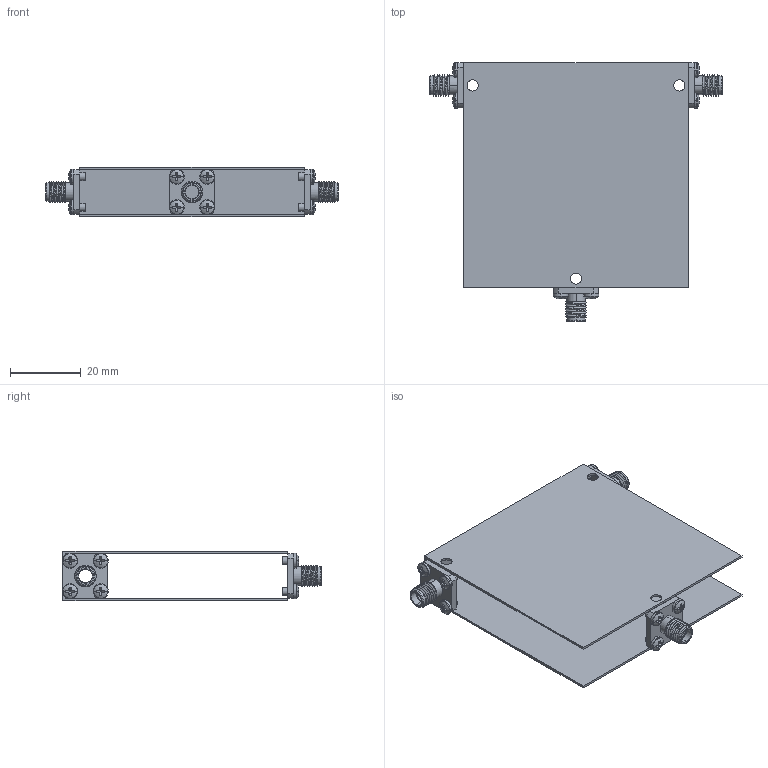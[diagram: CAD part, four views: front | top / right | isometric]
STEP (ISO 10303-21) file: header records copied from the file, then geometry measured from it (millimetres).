
FILE_DESCRIPTION (( 'STEP AP214' ), '1' );
FILE_NAME ('D3C1530 2.5x2.5x0.55 FFF.step', '2021-12-01T20:55:21', ( '' ), ( '' ), 'SwSTEP 2.0', 'SolidWorks 2016', '' );
FILE_SCHEMA (( 'AUTOMOTIVE_DESIGN' ));
Length unit declared in the file: inch
Products named in the file (4): Delta SMA-Female 0.500 flange Threaded; D3C1530 2.5x2.5x0.55 FFF; pan cross head_ai_CR-PHMS 0.086-56x0.125x0.125-N; D3I1525 2.5x2.5x0.55
Assembly tree (16 placements, depth 2):
  D3C1530 2.5x2.5x0.55 FFF
    D3I1525 2.5x2.5x0.55
    pan cross head_ai_CR-PHMS 0.086-56x0.125x0.125-N  x12
    Delta SMA-Female 0.500 flange Threaded  x3
Bounding box: 82.55 x 73.11 x 13.97 mm (x, y, z)
Volume: 6811.4 mm3; surface area: 20811.3 mm2
Topology: 16 solids, 16 shells, 415 faces, 945 edges, 583 vertices
Faces by surface type: plane 226, cylinder 126, torus 30, sphere 24, bspline 9
Entity records: 3527 total; most frequent: CARTESIAN_POINT 1178, DIRECTION 501, ORIENTED_EDGE 410, EDGE_CURVE 205, AXIS2_PLACEMENT_3D 204, VERTEX_POINT 131, EDGE_LOOP 110, CIRCLE 104
